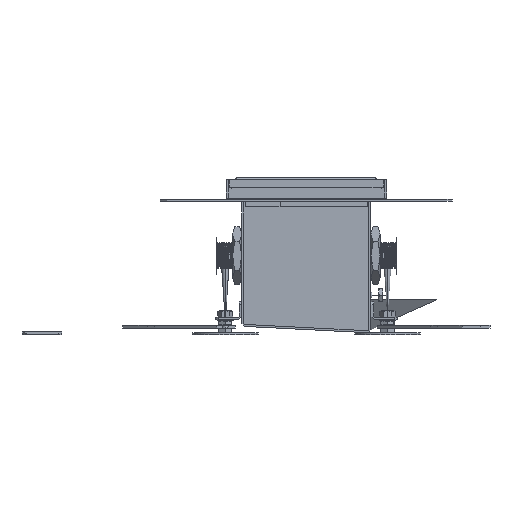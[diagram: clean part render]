
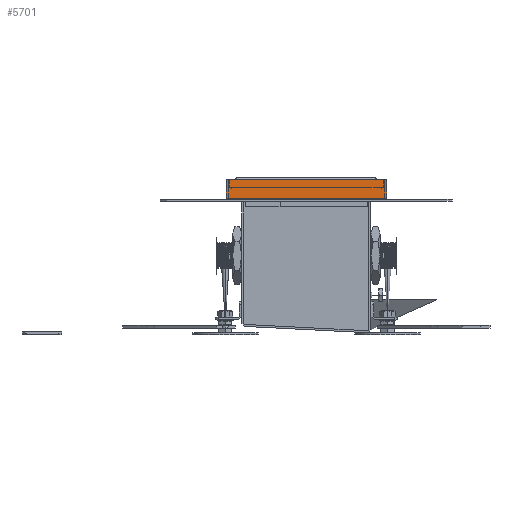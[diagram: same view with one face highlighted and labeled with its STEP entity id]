
A CAD part, left-side view. The second image highlights one B-rep face of the part: STEP entity #5701.
In plain terms, the highlighted free-form (B-spline) face has degree [1, 1] with [2, 2] control points.
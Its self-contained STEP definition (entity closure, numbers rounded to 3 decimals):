
#3236=(
BOUNDED_SURFACE()
B_SPLINE_SURFACE(2,1,((#80657,#80658),(#80659,#80660),(#80661,#80662),(#80663,
#80664),(#80665,#80666),(#80667,#80668),(#80669,#80670),(#80671,#80672),
(#80673,#80674)),.UNSPECIFIED.,.T.,.F.,.F.)
B_SPLINE_SURFACE_WITH_KNOTS((3,2,2,2,3),(2,2),(0.,1.571,3.142,
4.712,6.283),(0.,147.259),.UNSPECIFIED.)
GEOMETRIC_REPRESENTATION_ITEM()
RATIONAL_B_SPLINE_SURFACE(((1.,1.),(0.707,0.707),
(1.,1.),(0.707,0.707),(1.,1.),(0.707,
0.707),(1.,1.),(0.707,0.707),(1.,1.)))
REPRESENTATION_ITEM('')
SURFACE()
);
#3243=(
BOUNDED_SURFACE()
B_SPLINE_SURFACE(1,2,((#80783,#80784,#80785,#80786,#80787,#80788,#80789,
#80790,#80791),(#80792,#80793,#80794,#80795,#80796,#80797,#80798,#80799,
#80800)),.UNSPECIFIED.,.F.,.F.,.F.)
B_SPLINE_SURFACE_WITH_KNOTS((2,2),(3,2,2,2,3),(0.,148.699),(0.,1.571,
3.142,4.712,6.283),.UNSPECIFIED.)
GEOMETRIC_REPRESENTATION_ITEM()
RATIONAL_B_SPLINE_SURFACE(((1.,0.707,1.,0.707,1.,
0.707,1.,0.707,1.),(1.,0.707,1.,0.707,
1.,0.707,1.,0.707,1.)))
REPRESENTATION_ITEM('')
SURFACE()
);
#5701=ADVANCED_FACE('',(#7552),#53245,.T.);
#7552=FACE_OUTER_BOUND('',#9457,.T.);
#9457=EDGE_LOOP('',(#13127,#13128,#13129,#13130));
#13127=ORIENTED_EDGE('',*,*,#45958,.T.);
#13128=ORIENTED_EDGE('',*,*,#45959,.T.);
#13129=ORIENTED_EDGE('',*,*,#45960,.T.);
#13130=ORIENTED_EDGE('',*,*,#45956,.F.);
#22631=PCURVE('',#53244,#32137);
#22633=PCURVE('',#53245,#32139);
#22634=PCURVE('',#53245,#32140);
#22635=PCURVE('',#53245,#32141);
#22636=PCURVE('',#53245,#32142);
#22640=PCURVE('',#53246,#32146);
#22771=PCURVE('',#3236,#32277);
#22799=PCURVE('',#3243,#32305);
#32137=DEFINITIONAL_REPRESENTATION('',(#56843),#195971);
#32139=DEFINITIONAL_REPRESENTATION('',(#56847),#195971);
#32140=DEFINITIONAL_REPRESENTATION('',(#56849),#195971);
#32141=DEFINITIONAL_REPRESENTATION('',(#56851),#195971);
#32142=DEFINITIONAL_REPRESENTATION('',(#56852),#195971);
#32146=DEFINITIONAL_REPRESENTATION('',(#56859),#195971);
#32277=DEFINITIONAL_REPRESENTATION('',(#56998),#195971);
#32305=DEFINITIONAL_REPRESENTATION('',(#57026),#195971);
#41012=SURFACE_CURVE('',#56842,(#22631,#22636),.PCURVE_S1.);
#41014=SURFACE_CURVE('',#56846,(#22633,#22799),.PCURVE_S1.);
#41015=SURFACE_CURVE('',#56848,(#22634,#22640),.PCURVE_S1.);
#41016=SURFACE_CURVE('',#56850,(#22635,#22771),.PCURVE_S1.);
#45956=EDGE_CURVE('',#50615,#50613,#41012,.T.);
#45958=EDGE_CURVE('',#50615,#50616,#41014,.T.);
#45959=EDGE_CURVE('',#50616,#50617,#41015,.T.);
#45960=EDGE_CURVE('',#50617,#50613,#41016,.T.);
#50613=VERTEX_POINT('',#84163);
#50615=VERTEX_POINT('',#84165);
#50616=VERTEX_POINT('',#84166);
#50617=VERTEX_POINT('',#84167);
#53244=B_SPLINE_SURFACE_WITH_KNOTS('',1,1,((#80325,#80326),(#80327,#80328)),
 .UNSPECIFIED.,.F.,.F.,.F.,(2,2),(2,2),(-18.44,-0.06),(-551.83,
551.83),.UNSPECIFIED.);
#53245=B_SPLINE_SURFACE_WITH_KNOTS('',1,1,((#80329,#80330),(#80331,#80332)),
 .UNSPECIFIED.,.F.,.F.,.F.,(2,2),(2,2),(-18.44,-0.06),(-131.78,
15.48),.UNSPECIFIED.);
#53246=B_SPLINE_SURFACE_WITH_KNOTS('',1,1,((#80333,#80334),(#80335,#80336)),
 .UNSPECIFIED.,.F.,.F.,.F.,(2,2),(2,2),(-18.44,-0.06),(-1008.48,
95.18),.UNSPECIFIED.);
#56842=B_SPLINE_CURVE_WITH_KNOTS('',1,(#85957,#85958),.UNSPECIFIED.,.F.,
 .F.,(2,2),(0.,14.3),.UNSPECIFIED.);
#56843=B_SPLINE_CURVE_WITH_KNOTS('',1,(#85959,#85960),.UNSPECIFIED.,.F.,
 .F.,(2,2),(0.,14.3),.UNSPECIFIED.);
#56846=B_SPLINE_CURVE_WITH_KNOTS('',1,(#85965,#85966),.UNSPECIFIED.,.F.,
 .F.,(2,2),(0.,121.7),.UNSPECIFIED.);
#56847=B_SPLINE_CURVE_WITH_KNOTS('',1,(#85967,#85968),.UNSPECIFIED.,.F.,
 .F.,(2,2),(0.,121.7),.UNSPECIFIED.);
#56848=B_SPLINE_CURVE_WITH_KNOTS('',1,(#85969,#85970),.UNSPECIFIED.,.F.,
 .F.,(2,2),(0.,14.3),.UNSPECIFIED.);
#56849=B_SPLINE_CURVE_WITH_KNOTS('',1,(#85971,#85972),.UNSPECIFIED.,.F.,
 .F.,(2,2),(0.,14.3),.UNSPECIFIED.);
#56850=B_SPLINE_CURVE_WITH_KNOTS('',1,(#85973,#85974),.UNSPECIFIED.,.F.,
 .F.,(2,2),(0.,121.7),.UNSPECIFIED.);
#56851=B_SPLINE_CURVE_WITH_KNOTS('',1,(#85975,#85976),.UNSPECIFIED.,.F.,
 .F.,(2,2),(0.,121.7),.UNSPECIFIED.);
#56852=B_SPLINE_CURVE_WITH_KNOTS('',1,(#85977,#85978),.UNSPECIFIED.,.F.,
 .F.,(2,2),(0.,14.3),.UNSPECIFIED.);
#56859=B_SPLINE_CURVE_WITH_KNOTS('',1,(#85991,#85992),.UNSPECIFIED.,.F.,
 .F.,(2,2),(0.,14.3),.UNSPECIFIED.);
#56998=B_SPLINE_CURVE_WITH_KNOTS('',1,(#86586,#86587),.UNSPECIFIED.,.F.,
 .F.,(2,2),(0.,121.7),.UNSPECIFIED.);
#57026=B_SPLINE_CURVE_WITH_KNOTS('',1,(#86734,#86735),.UNSPECIFIED.,.F.,
 .F.,(2,2),(0.,121.7),.UNSPECIFIED.);
#80325=CARTESIAN_POINT('',(225.,-125.03,10.142));
#80326=CARTESIAN_POINT('',(335.366,-125.03,10.142));
#80327=CARTESIAN_POINT('',(225.,-125.03,11.98));
#80328=CARTESIAN_POINT('',(335.366,-125.03,11.98));
#80329=CARTESIAN_POINT('',(234.248,-138.478,10.142));
#80330=CARTESIAN_POINT('',(234.248,-123.752,10.142));
#80331=CARTESIAN_POINT('',(234.248,-138.478,11.98));
#80332=CARTESIAN_POINT('',(234.248,-123.752,11.98));
#80333=CARTESIAN_POINT('',(335.366,-137.2,10.142));
#80334=CARTESIAN_POINT('',(225.,-137.2,10.142));
#80335=CARTESIAN_POINT('',(335.366,-137.2,11.98));
#80336=CARTESIAN_POINT('',(225.,-137.2,11.98));
#80657=CARTESIAN_POINT('',(234.458,-123.752,11.566));
#80658=CARTESIAN_POINT('',(234.458,-138.478,11.566));
#80659=CARTESIAN_POINT('',(234.668,-123.752,11.566));
#80660=CARTESIAN_POINT('',(234.668,-138.478,11.566));
#80661=CARTESIAN_POINT('',(234.668,-123.752,11.776));
#80662=CARTESIAN_POINT('',(234.668,-138.478,11.776));
#80663=CARTESIAN_POINT('',(234.668,-123.752,11.986));
#80664=CARTESIAN_POINT('',(234.668,-138.478,11.986));
#80665=CARTESIAN_POINT('',(234.458,-123.752,11.986));
#80666=CARTESIAN_POINT('',(234.458,-138.478,11.986));
#80667=CARTESIAN_POINT('',(234.248,-123.752,11.986));
#80668=CARTESIAN_POINT('',(234.248,-138.478,11.986));
#80669=CARTESIAN_POINT('',(234.248,-123.752,11.776));
#80670=CARTESIAN_POINT('',(234.248,-138.478,11.776));
#80671=CARTESIAN_POINT('',(234.248,-123.752,11.566));
#80672=CARTESIAN_POINT('',(234.248,-138.478,11.566));
#80673=CARTESIAN_POINT('',(234.458,-123.752,11.566));
#80674=CARTESIAN_POINT('',(234.458,-138.478,11.566));
#80783=CARTESIAN_POINT('',(234.128,-138.55,10.346));
#80784=CARTESIAN_POINT('',(234.128,-138.55,10.406));
#80785=CARTESIAN_POINT('',(234.188,-138.55,10.406));
#80786=CARTESIAN_POINT('',(234.248,-138.55,10.406));
#80787=CARTESIAN_POINT('',(234.248,-138.55,10.346));
#80788=CARTESIAN_POINT('',(234.248,-138.55,10.286));
#80789=CARTESIAN_POINT('',(234.188,-138.55,10.286));
#80790=CARTESIAN_POINT('',(234.128,-138.55,10.286));
#80791=CARTESIAN_POINT('',(234.128,-138.55,10.346));
#80792=CARTESIAN_POINT('',(234.128,-123.68,10.346));
#80793=CARTESIAN_POINT('',(234.128,-123.68,10.406));
#80794=CARTESIAN_POINT('',(234.188,-123.68,10.406));
#80795=CARTESIAN_POINT('',(234.248,-123.68,10.406));
#80796=CARTESIAN_POINT('',(234.248,-123.68,10.346));
#80797=CARTESIAN_POINT('',(234.248,-123.68,10.286));
#80798=CARTESIAN_POINT('',(234.188,-123.68,10.286));
#80799=CARTESIAN_POINT('',(234.128,-123.68,10.286));
#80800=CARTESIAN_POINT('',(234.128,-123.68,10.346));
#84163=CARTESIAN_POINT('',(234.248,-125.03,11.776));
#84165=CARTESIAN_POINT('',(234.248,-125.03,10.346));
#84166=CARTESIAN_POINT('',(234.248,-137.2,10.346));
#84167=CARTESIAN_POINT('',(234.248,-137.2,11.776));
#85957=CARTESIAN_POINT('',(234.248,-125.03,10.346));
#85958=CARTESIAN_POINT('',(234.248,-125.03,11.776));
#85959=CARTESIAN_POINT('',(-16.4,-459.35));
#85960=CARTESIAN_POINT('',(-2.1,-459.35));
#85965=CARTESIAN_POINT('',(234.248,-125.03,10.346));
#85966=CARTESIAN_POINT('',(234.248,-137.2,10.346));
#85967=CARTESIAN_POINT('',(-16.4,2.7));
#85968=CARTESIAN_POINT('',(-16.4,-119.));
#85969=CARTESIAN_POINT('',(234.248,-137.2,10.346));
#85970=CARTESIAN_POINT('',(234.248,-137.2,11.776));
#85971=CARTESIAN_POINT('',(-16.4,-119.));
#85972=CARTESIAN_POINT('',(-2.1,-119.));
#85973=CARTESIAN_POINT('',(234.248,-137.2,11.776));
#85974=CARTESIAN_POINT('',(234.248,-125.03,11.776));
#85975=CARTESIAN_POINT('',(-2.1,-119.));
#85976=CARTESIAN_POINT('',(-2.1,2.7));
#85977=CARTESIAN_POINT('',(-16.4,2.7));
#85978=CARTESIAN_POINT('',(-2.1,2.7));
#85991=CARTESIAN_POINT('',(-16.4,2.7));
#85992=CARTESIAN_POINT('',(-2.1,2.7));
#86586=CARTESIAN_POINT('',(4.712,134.48));
#86587=CARTESIAN_POINT('',(4.712,12.78));
#86734=CARTESIAN_POINT('',(135.2,3.142));
#86735=CARTESIAN_POINT('',(13.5,3.142));
#195971=(
GEOMETRIC_REPRESENTATION_CONTEXT(2)
PARAMETRIC_REPRESENTATION_CONTEXT()
REPRESENTATION_CONTEXT('pspace','')
);
